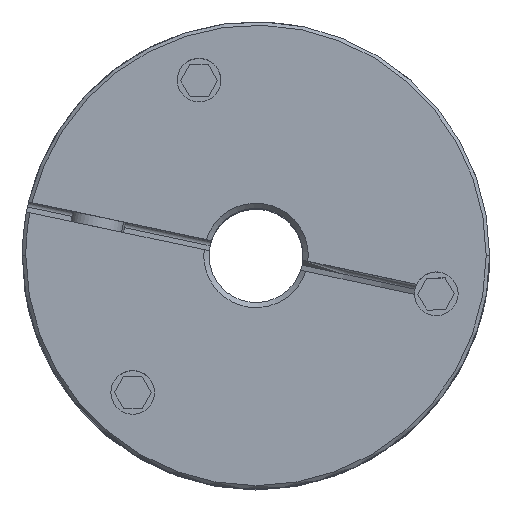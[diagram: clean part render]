
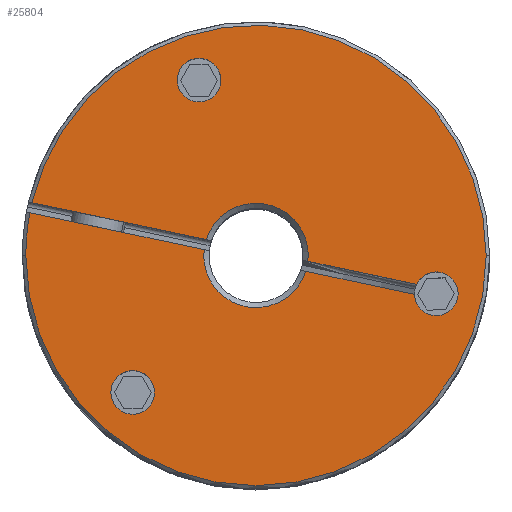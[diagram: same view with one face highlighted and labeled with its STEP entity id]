
A CAD part, top view. The second image highlights one B-rep face of the part: STEP entity #25804.
In plain terms, the highlighted planar face has unit normal (0, 0, 1).
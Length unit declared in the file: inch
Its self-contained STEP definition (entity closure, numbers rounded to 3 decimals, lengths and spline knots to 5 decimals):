
#8437=DIRECTION('',(-0.978,0.208,0.));
#8438=VECTOR('',#8437,0.65054);
#8439=CARTESIAN_POINT('',(-1.54414,0.42416,
5.89413));
#8440=LINE('',#8439,#8438);
#8468=DIRECTION('',(-0.978,0.208,0.));
#8469=VECTOR('',#8468,1.04335);
#8470=CARTESIAN_POINT('',(-2.77602,0.686,
5.89413));
#8471=LINE('',#8470,#8469);
#8478=CARTESIAN_POINT('',(-3.79657,0.90293,
5.89413));
#8742=CARTESIAN_POINT('',(-3.19423,-0.15006,
5.89413));
#8743=DIRECTION('',(0.,0.,-1.));
#8744=DIRECTION('',(-0.208,-0.978,0.));
#8745=AXIS2_PLACEMENT_3D('',#8742,#8743,#8744);
#8750=CARTESIAN_POINT('',(-3.19423,-0.15006,
5.89413));
#8751=DIRECTION('',(0.,0.,1.));
#8752=DIRECTION('',(-0.208,-0.978,0.));
#8753=AXIS2_PLACEMENT_3D('',#8750,#8751,#8752);
#8758=CARTESIAN_POINT('',(-3.19423,-0.15006,
5.89413));
#8759=DIRECTION('',(0.,0.,-1.));
#8760=DIRECTION('',(-1.,0.,0.));
#8761=AXIS2_PLACEMENT_3D('',#8758,#8759,#8760);
#8766=CARTESIAN_POINT('',(-2.80554,1.67858,5.89413));
#8767=DIRECTION('',(0.,0.,-1.));
#8768=DIRECTION('',(-0.208,-0.978,0.));
#8769=AXIS2_PLACEMENT_3D('',#8766,#8767,#8768);
#8774=CARTESIAN_POINT('',(-2.80554,1.67858,5.89413));
#8775=DIRECTION('',(0.,0.,1.));
#8776=DIRECTION('',(-0.208,-0.978,0.));
#8777=AXIS2_PLACEMENT_3D('',#8774,#8775,#8776);
#8782=CARTESIAN_POINT('',(-2.80554,1.67858,5.89413));
#8783=DIRECTION('',(0.,0.,-1.));
#8784=DIRECTION('',(-1.,0.,0.));
#8785=AXIS2_PLACEMENT_3D('',#8782,#8783,#8784);
#8790=CARTESIAN_POINT('',(-2.472,0.65205,
5.89413));
#8791=DIRECTION('',(0.,0.,1.));
#8792=DIRECTION('',(1.,0.,0.));
#8793=AXIS2_PLACEMENT_3D('',#8790,#8791,#8792);
#8798=CARTESIAN_POINT('',(-2.472,0.65205,
5.89413));
#8799=DIRECTION('',(0.,0.,1.));
#8800=DIRECTION('',(-1.,0.,0.));
#8801=AXIS2_PLACEMENT_3D('',#8798,#8799,#8800);
#8806=CARTESIAN_POINT('',(-2.472,0.65205,
5.89413));
#8807=DIRECTION('',(0.,0.,1.));
#8808=DIRECTION('',(-0.983,0.186,0.));
#8809=AXIS2_PLACEMENT_3D('',#8806,#8807,#8808);
#8814=CARTESIAN_POINT('',(-1.41624,0.42764,
5.89413));
#8815=DIRECTION('',(0.,0.,-1.));
#8816=DIRECTION('',(-0.208,-0.978,0.));
#8817=AXIS2_PLACEMENT_3D('',#8814,#8815,#8816);
#8822=CARTESIAN_POINT('',(-1.41624,0.42764,
5.89413));
#8823=DIRECTION('',(0.,0.,-1.));
#8824=DIRECTION('',(1.,0.,0.));
#8825=AXIS2_PLACEMENT_3D('',#8822,#8823,#8824);
#8830=CARTESIAN_POINT('',(-1.41624,0.42764,
5.89413));
#8831=DIRECTION('',(0.,0.,-1.));
#8832=DIRECTION('',(0.208,0.978,0.));
#8833=AXIS2_PLACEMENT_3D('',#8830,#8831,#8832);
#8838=CARTESIAN_POINT('',(-1.41624,0.42764,
5.89413));
#8839=DIRECTION('',(0.,0.,-1.));
#8840=DIRECTION('',(-0.902,0.431,0.));
#8841=AXIS2_PLACEMENT_3D('',#8838,#8839,#8840);
#9004=DIRECTION('',(0.978,-0.208,0.));
#9005=VECTOR('',#9004,1.04335);
#9006=CARTESIAN_POINT('',(-3.78411,0.96154,
5.89413));
#9007=LINE('',#9006,#9005);
#9035=DIRECTION('',(0.978,-0.208,0.));
#9036=VECTOR('',#9035,0.65054);
#9037=CARTESIAN_POINT('',(-2.16799,0.6181,
5.89413));
#9038=LINE('',#9037,#9036);
#9269=CARTESIAN_POINT('',(-2.472,0.65205,
5.89413));
#9270=DIRECTION('',(0.,0.,-1.));
#9271=DIRECTION('',(-0.953,0.303,0.));
#9272=AXIS2_PLACEMENT_3D('',#9269,#9270,#9271);
#9905=CARTESIAN_POINT('',(-2.472,0.65205,
5.89413));
#9906=DIRECTION('',(0.,0.,-1.));
#9907=DIRECTION('',(0.953,-0.303,0.));
#9908=AXIS2_PLACEMENT_3D('',#9905,#9906,#9907);
#16564=CARTESIAN_POINT('',(-1.12389,0.65205,
5.89413));
#16565=CARTESIAN_POINT('',(-3.78409,0.96162,
5.89413));
#16566=VERTEX_POINT('',#16564);
#16567=VERTEX_POINT('',#16565);
#16657=CARTESIAN_POINT('',(-1.54414,0.42416,
5.89413));
#16659=VERTEX_POINT('',#16657);
#17018=CARTESIAN_POINT('',(-1.38963,0.5528,
5.89413));
#17020=VERTEX_POINT('',#17018);
#17515=CARTESIAN_POINT('',(-3.16763,-0.02491,
5.89413));
#17517=VERTEX_POINT('',#17515);
#17662=CARTESIAN_POINT('',(-1.28828,0.42764,
5.89413));
#17663=VERTEX_POINT('',#17662);
#17800=CARTESIAN_POINT('',(-2.9335,1.67858,
5.89413));
#17801=CARTESIAN_POINT('',(-2.77894,1.80374,
5.89413));
#17802=VERTEX_POINT('',#17800);
#17803=VERTEX_POINT('',#17801);
#17857=VERTEX_POINT('',#8478);
#17956=CARTESIAN_POINT('',(-2.83215,1.55342,
5.89413));
#17957=VERTEX_POINT('',#17956);
#17968=CARTESIAN_POINT('',(-1.53167,0.48285,
5.89413));
#17969=VERTEX_POINT('',#17968);
#18638=CARTESIAN_POINT('',(-3.32219,-0.15006,
5.89413));
#18640=VERTEX_POINT('',#18638);
#18829=CARTESIAN_POINT('',(-1.44284,0.30249,
5.89413));
#18830=VERTEX_POINT('',#18829);
#18935=CARTESIAN_POINT('',(-3.22084,-0.27522,
5.89413));
#18936=VERTEX_POINT('',#18935);
#18979=CARTESIAN_POINT('',(-3.82012,0.65205,
5.89413));
#18980=VERTEX_POINT('',#18979);
#19314=CARTESIAN_POINT('',(-2.76355,0.74469,
5.89413));
#19315=VERTEX_POINT('',#19314);
#19316=CARTESIAN_POINT('',(-2.16799,0.6181,
5.89413));
#19317=VERTEX_POINT('',#19316);
#19318=CARTESIAN_POINT('',(-2.18046,0.55941,
5.89413));
#19319=VERTEX_POINT('',#19318);
#19320=CARTESIAN_POINT('',(-2.77602,0.686,
5.89413));
#19321=VERTEX_POINT('',#19320);
#25759=CARTESIAN_POINT('',(-2.472,0.65205,
5.89413));
#25760=DIRECTION('',(0.,0.,1.));
#25761=DIRECTION('',(0.,-1.,0.));
#25762=AXIS2_PLACEMENT_3D('',#25759,#25760,#25761);
#25763=PLANE('',#25762);
#25765=ORIENTED_EDGE('',*,*,#25764,.F.);
#25767=ORIENTED_EDGE('',*,*,#25766,.F.);
#25769=ORIENTED_EDGE('',*,*,#25768,.F.);
#25771=ORIENTED_EDGE('',*,*,#25770,.F.);
#25772=ORIENTED_EDGE('',*,*,#25562,.F.);
#25774=ORIENTED_EDGE('',*,*,#25773,.F.);
#25775=ORIENTED_EDGE('',*,*,#25544,.F.);
#25777=ORIENTED_EDGE('',*,*,#25776,.F.);
#25779=ORIENTED_EDGE('',*,*,#25778,.F.);
#25781=ORIENTED_EDGE('',*,*,#25780,.F.);
#25783=ORIENTED_EDGE('',*,*,#25782,.F.);
#25785=ORIENTED_EDGE('',*,*,#25784,.F.);
#25787=ORIENTED_EDGE('',*,*,#25786,.F.);
#25788=EDGE_LOOP('',(#25765,#25767,#25769,#25771,#25772,#25774,#25775,#25777,
#25779,#25781,#25783,#25785,#25787));
#25789=FACE_OUTER_BOUND('',#25788,.F.);
#25791=ORIENTED_EDGE('',*,*,#25790,.F.);
#25793=ORIENTED_EDGE('',*,*,#25792,.T.);
#25795=ORIENTED_EDGE('',*,*,#25794,.F.);
#25796=EDGE_LOOP('',(#25791,#25793,#25795));
#25797=FACE_BOUND('',#25796,.F.);
#25799=ORIENTED_EDGE('',*,*,#25798,.F.);
#25800=ORIENTED_EDGE('',*,*,#25737,.T.);
#25801=ORIENTED_EDGE('',*,*,#25750,.F.);
#25802=EDGE_LOOP('',(#25799,#25800,#25801));
#25803=FACE_BOUND('',#25802,.F.);
#8746=CIRCLE('',#8745,0.12795);
#8754=CIRCLE('',#8753,0.12795);
#8762=CIRCLE('',#8761,0.12795);
#8770=CIRCLE('',#8769,0.12795);
#8778=CIRCLE('',#8777,0.12795);
#8786=CIRCLE('',#8785,0.12795);
#8794=CIRCLE('',#8793,1.34811);
#8802=CIRCLE('',#8801,1.34811);
#8810=CIRCLE('',#8809,1.34811);
#8818=CIRCLE('',#8817,0.12795);
#8826=CIRCLE('',#8825,0.12795);
#8834=CIRCLE('',#8833,0.12795);
#8842=CIRCLE('',#8841,0.12795);
#9273=CIRCLE('',#9272,0.3059);
#9909=CIRCLE('',#9908,0.30591);
#25544=EDGE_CURVE('',#16659,#19319,#8440,.T.);
#25562=EDGE_CURVE('',#19321,#17857,#8471,.T.);
#25737=EDGE_CURVE('',#18936,#17517,#8754,.T.);
#25750=EDGE_CURVE('',#18640,#17517,#8762,.T.);
#25764=EDGE_CURVE('',#16567,#19315,#9007,.T.);
#25766=EDGE_CURVE('',#16566,#16567,#8794,.T.);
#25768=EDGE_CURVE('',#18980,#16566,#8802,.T.);
#25770=EDGE_CURVE('',#17857,#18980,#8810,.T.);
#25773=EDGE_CURVE('',#19319,#19321,#9909,.T.);
#25776=EDGE_CURVE('',#18830,#16659,#8818,.T.);
#25778=EDGE_CURVE('',#17663,#18830,#8826,.T.);
#25780=EDGE_CURVE('',#17020,#17663,#8834,.T.);
#25782=EDGE_CURVE('',#17969,#17020,#8842,.T.);
#25784=EDGE_CURVE('',#19317,#17969,#9038,.T.);
#25786=EDGE_CURVE('',#19315,#19317,#9273,.T.);
#25790=EDGE_CURVE('',#17957,#17802,#8770,.T.);
#25792=EDGE_CURVE('',#17957,#17803,#8778,.T.);
#25794=EDGE_CURVE('',#17802,#17803,#8786,.T.);
#25798=EDGE_CURVE('',#18936,#18640,#8746,.T.);
#25804=ADVANCED_FACE('',(#25789,#25797,#25803),#25763,.T.);
